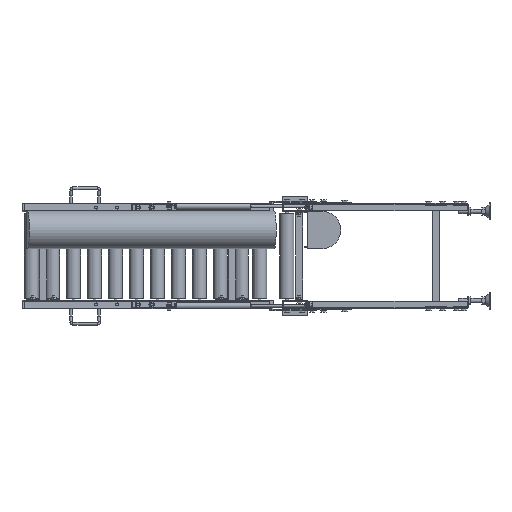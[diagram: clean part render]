
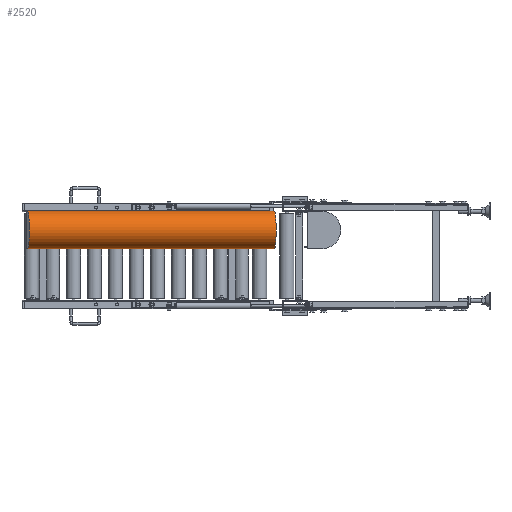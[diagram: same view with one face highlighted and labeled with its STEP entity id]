
A CAD part, left-side view. The second image highlights one B-rep face of the part: STEP entity #2520.
In plain terms, the highlighted cylindrical face has radius 66.89 mm (diameter 133.78 mm), a partial arc.
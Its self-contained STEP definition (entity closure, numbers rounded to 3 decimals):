
#2520=ADVANCED_FACE('',(#25878),#25877,.T.);
#25877=CYLINDRICAL_SURFACE('',#41921,66.89);
#25878=FACE_OUTER_BOUND('',#41922,.T.);
#41918=CARTESIAN_POINT('',(-63.444,-158.438,92.61));
#41919=DIRECTION('',(0.087,-0.996,0.));
#41920=DIRECTION('',(0.,0.,-1.));
#41921=AXIS2_PLACEMENT_3D('',#41918,#41919,#41920);
#41922=EDGE_LOOP('',(#55683,#55684,#55685,#55686));
#55683=ORIENTED_EDGE('',*,*,#62413,.F.);
#55684=ORIENTED_EDGE('',*,*,#63711,.T.);
#55685=ORIENTED_EDGE('',*,*,#63712,.T.);
#55686=ORIENTED_EDGE('',*,*,#63713,.F.);
#62413=EDGE_CURVE('',#96189,#96196,#96197,.T.);
#63711=EDGE_CURVE('',#96189,#104797,#104804,.T.);
#63712=EDGE_CURVE('',#104797,#104810,#104811,.T.);
#63713=EDGE_CURVE('',#96196,#104810,#104817,.T.);
#96189=VERTEX_POINT('',#129526);
#96196=VERTEX_POINT('',#129530);
#96197=CIRCLE('',#129534,66.89);
#104797=VERTEX_POINT('',#134498);
#104804=LINE('',#134502,#134503);
#104810=VERTEX_POINT('',#134505);
#104811=CIRCLE('',#134509,66.89);
#104817=LINE('',#134510,#134511);
#129526=CARTESIAN_POINT('',(-78.917,18.539,159.5));
#129530=CARTESIAN_POINT('',(-78.917,18.539,25.72));
#129531=CARTESIAN_POINT('',(-78.917,18.539,92.61));
#129532=DIRECTION('',(0.087,-0.996,0.));
#129533=DIRECTION('',(0.,0.,1.));
#129534=AXIS2_PLACEMENT_3D('',#129531,#129532,#129533);
#134498=CARTESIAN_POINT('',(-155.735,897.187,159.5));
#134502=CARTESIAN_POINT('',(-78.917,18.539,159.5));
#134503=VECTOR('',#134504,882.);
#134504=DIRECTION('',(-0.087,0.996,0.));
#134505=CARTESIAN_POINT('',(-155.735,897.187,25.72));
#134506=CARTESIAN_POINT('',(-155.735,897.187,92.61));
#134507=DIRECTION('',(0.087,-0.996,0.));
#134508=DIRECTION('',(0.,0.,-1.));
#134509=AXIS2_PLACEMENT_3D('',#134506,#134507,#134508);
#134510=CARTESIAN_POINT('',(-78.917,18.539,25.72));
#134511=VECTOR('',#134512,882.);
#134512=DIRECTION('',(-0.087,0.996,0.));
